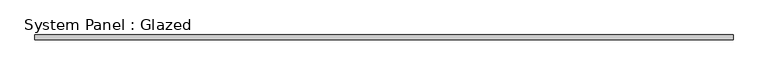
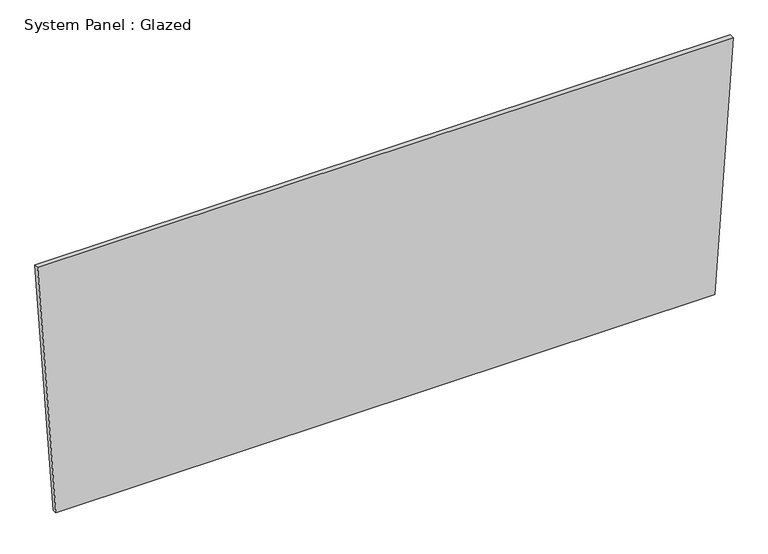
"""IFC4 building model written with IfcOpenShell, lengths in millimetres: plate geometry, System Panel : Glazed."""

from ifc_helpers import new_model, si_unit, frame, origin, place, context, project, spatial, polyline, outline, extrude, source, transform, mapped, element, save


def system_panel_glazed_cf9631f2(model_context):
    return source(origin(), model_context, "Body", "SweptSolid", [
        extrude(outline(polyline([(0.0, -1806.5186503), (0.0, 1806.5186503), (1456.932163, 1906.3870138), (1456.932163, -1906.3870138), (0.0, -1806.5186503)])), frame((0.0, -44.45, 0.0), z_axis=(0.0, 1.0, 0.0), x_axis=(0.0, 0.0, 1.0)), (0.0, 0.0, 1.0), 25.4),
    ])


if __name__ == "__main__":
    model = new_model("IFC4")
    model_context = context("Model", 3, world=origin())
    ifc_project = project(units=[si_unit("LENGTHUNIT", "METRE", prefix="MILLI")], contexts=[model_context])
    site = spatial("IfcSite", under=ifc_project)
    building = spatial("IfcBuilding", under=site)
    placement = place(None, origin())
    system_panel_glazed_shape = system_panel_glazed_cf9631f2(model_context)
    element("IfcPlate", 1, ObjectType="System Panel : Glazed", at=placement, inside=building, context=model_context, shape_type="MappedRepresentation", body=[
        mapped(system_panel_glazed_shape, transform((0.0, 0.0, 0.0), x_axis=(1.0, 0.0, 0.0), y_axis=(0.0, 1.0, 0.0), z_axis=(0.0, 0.0, 1.0))),
    ])
    save(model, "model.ifc")
